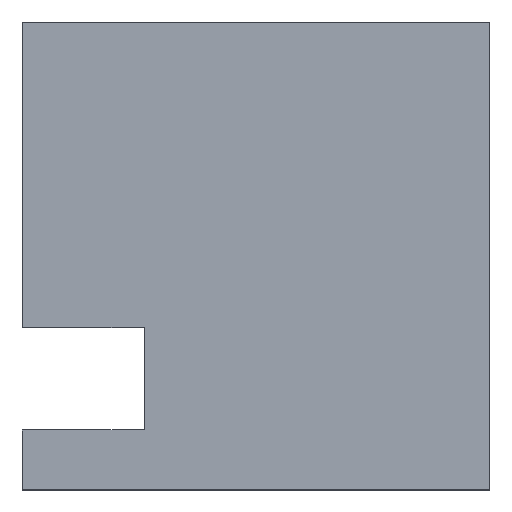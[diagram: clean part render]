
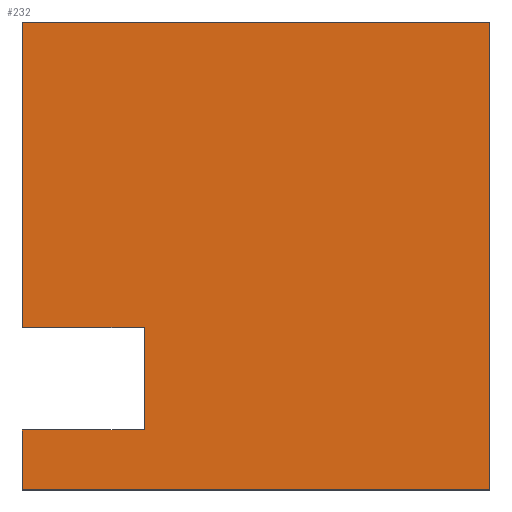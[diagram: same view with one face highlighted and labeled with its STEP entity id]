
A CAD part, top view. The second image highlights one B-rep face of the part: STEP entity #232.
In plain terms, the highlighted planar face has unit normal (0, 0, 1).
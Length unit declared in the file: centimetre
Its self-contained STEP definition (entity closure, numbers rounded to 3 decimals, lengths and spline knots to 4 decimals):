
#17 = VERTEX_POINT ( 'NONE', #111 ) ;
#20 = EDGE_CURVE ( 'NONE', #53, #17, #251, .T. ) ;
#48 = CARTESIAN_POINT ( 'NONE',  ( 0., 0., 1000. ) ) ;
#53 = VERTEX_POINT ( 'NONE', #890 ) ;
#58 = LINE ( 'NONE', #146, #751 ) ;
#61 = LINE ( 'NONE', #239, #786 ) ;
#63 = VECTOR ( 'NONE', #961, 100. ) ;
#71 = CARTESIAN_POINT ( 'NONE',  ( 0., 0., 1000. ) ) ;
#97 = CARTESIAN_POINT ( 'NONE',  ( 1000., 1000., 1000. ) ) ;
#111 = CARTESIAN_POINT ( 'NONE',  ( 0., 346.7742, 1000. ) ) ;
#136 = PLANE ( 'NONE',  #815 ) ;
#146 = CARTESIAN_POINT ( 'NONE',  ( 0., 1000., 1000. ) ) ;
#148 = EDGE_CURVE ( 'NONE', #1002, #329, #298, .T. ) ;
#155 = CARTESIAN_POINT ( 'NONE',  ( 0., 0., 1000. ) ) ;
#170 = VERTEX_POINT ( 'NONE', #291 ) ;
#206 = EDGE_CURVE ( 'NONE', #549, #170, #639, .T. ) ;
#227 = DIRECTION ( 'NONE',  ( 1., 0., 0. ) ) ;
#232 = ADVANCED_FACE ( 'NONE', ( #854 ), #136, .T. ) ;
#234 = CARTESIAN_POINT ( 'NONE',  ( 0., 1000., 1000. ) ) ;
#239 = CARTESIAN_POINT ( 'NONE',  ( 0., 126.6842, 1000. ) ) ;
#251 = LINE ( 'NONE', #419, #749 ) ;
#254 = LINE ( 'NONE', #965, #63 ) ;
#257 = VECTOR ( 'NONE', #555, 100. ) ;
#264 = VERTEX_POINT ( 'NONE', #624 ) ;
#291 = CARTESIAN_POINT ( 'NONE',  ( 0., 1000., 1000. ) ) ;
#298 = LINE ( 'NONE', #71, #830 ) ;
#318 = EDGE_CURVE ( 'NONE', #264, #489, #61, .T. ) ;
#329 = VERTEX_POINT ( 'NONE', #1028 ) ;
#341 = EDGE_LOOP ( 'NONE', ( #734, #1001, #769, #364, #779, #691, #973, #744 ) ) ;
#364 = ORIENTED_EDGE ( 'NONE', *, *, #772, .T. ) ;
#394 = EDGE_CURVE ( 'NONE', #329, #549, #745, .T. ) ;
#407 = CARTESIAN_POINT ( 'NONE',  ( 260.7296, 126.6842, 1000. ) ) ;
#418 = DIRECTION ( 'NONE',  ( 0., 1., 0. ) ) ;
#419 = CARTESIAN_POINT ( 'NONE',  ( 0., 346.7742, 1000. ) ) ;
#489 = VERTEX_POINT ( 'NONE', #407 ) ;
#491 = CARTESIAN_POINT ( 'NONE',  ( 260.7296, 126.6842, 1000. ) ) ;
#502 = EDGE_CURVE ( 'NONE', #170, #17, #254, .T. ) ;
#549 = VERTEX_POINT ( 'NONE', #97 ) ;
#554 = DIRECTION ( 'NONE',  ( 1., 0., 0. ) ) ;
#555 = DIRECTION ( 'NONE',  ( -1., 0., 0. ) ) ;
#556 = EDGE_CURVE ( 'NONE', #489, #53, #809, .T. ) ;
#580 = VECTOR ( 'NONE', #418, 100. ) ;
#592 = DIRECTION ( 'NONE',  ( -1., 0., 0. ) ) ;
#598 = CARTESIAN_POINT ( 'NONE',  ( 1000., 1000., 1000. ) ) ;
#624 = CARTESIAN_POINT ( 'NONE',  ( 0., 126.6842, 1000. ) ) ;
#639 = LINE ( 'NONE', #234, #257 ) ;
#691 = ORIENTED_EDGE ( 'NONE', *, *, #394, .T. ) ;
#734 = ORIENTED_EDGE ( 'NONE', *, *, #20, .F. ) ;
#744 = ORIENTED_EDGE ( 'NONE', *, *, #502, .T. ) ;
#745 = LINE ( 'NONE', #598, #802 ) ;
#749 = VECTOR ( 'NONE', #592, 100. ) ;
#751 = VECTOR ( 'NONE', #941, 100. ) ;
#769 = ORIENTED_EDGE ( 'NONE', *, *, #318, .F. ) ;
#772 = EDGE_CURVE ( 'NONE', #264, #1002, #58, .T. ) ;
#778 = DIRECTION ( 'NONE',  ( 1., 0., 0. ) ) ;
#779 = ORIENTED_EDGE ( 'NONE', *, *, #148, .T. ) ;
#786 = VECTOR ( 'NONE', #227, 100. ) ;
#802 = VECTOR ( 'NONE', #839, 100. ) ;
#809 = LINE ( 'NONE', #491, #580 ) ;
#815 = AXIS2_PLACEMENT_3D ( 'NONE', #155, #937, #554 ) ;
#830 = VECTOR ( 'NONE', #778, 100. ) ;
#839 = DIRECTION ( 'NONE',  ( 0., 1., 0. ) ) ;
#854 = FACE_OUTER_BOUND ( 'NONE', #341, .T. ) ;
#890 = CARTESIAN_POINT ( 'NONE',  ( 260.7296, 346.7742, 1000. ) ) ;
#937 = DIRECTION ( 'NONE',  ( 0., 0., 1. ) ) ;
#941 = DIRECTION ( 'NONE',  ( 0., -1., 0. ) ) ;
#961 = DIRECTION ( 'NONE',  ( 0., -1., 0. ) ) ;
#965 = CARTESIAN_POINT ( 'NONE',  ( 0., 1000., 1000. ) ) ;
#973 = ORIENTED_EDGE ( 'NONE', *, *, #206, .T. ) ;
#1001 = ORIENTED_EDGE ( 'NONE', *, *, #556, .F. ) ;
#1002 = VERTEX_POINT ( 'NONE', #48 ) ;
#1028 = CARTESIAN_POINT ( 'NONE',  ( 1000., 0., 1000. ) ) ;
